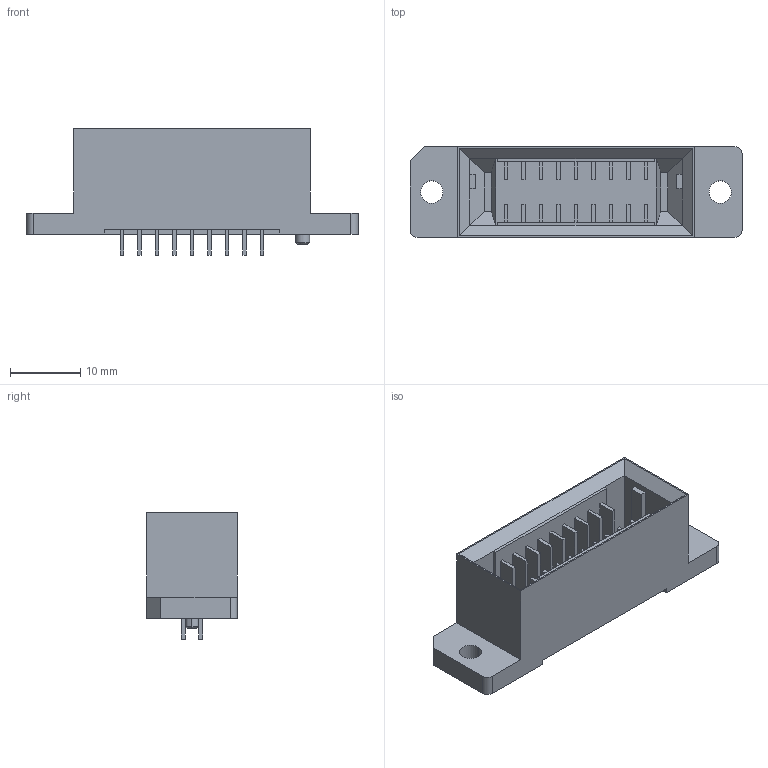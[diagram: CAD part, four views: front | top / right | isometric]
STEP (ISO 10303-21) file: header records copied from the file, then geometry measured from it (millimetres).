
FILE_DESCRIPTION(('CoCreate Modeling STEP Export'),'2;1');
FILE_NAME('P3A946_FA11-018.stp','2017-07-27T15:57:02',(''),(''),'CoCreate Modeling STEP processor for AP214 (Solid Model)','CoCreate Modeling 17.0B 09-Oct-2010 (C) Parametric Technology GmbH','');
FILE_SCHEMA(('AUTOMOTIVE_DESIGN { 1 0 10303 214 1 1 1 1 }'));
Length unit declared in the file: millimetre
Products named in the file (2): FA11-018
Assembly tree (1 placements, depth 2):
  FA11-018
    FA11-018
Bounding box: 47.3 x 12.9 x 18 mm (x, y, z)
Volume: 3736.7 mm3; surface area: 4566.5 mm2
Topology: 1 solids, 1 shells, 230 faces, 607 edges, 399 vertices
Faces by surface type: plane 219, cylinder 9, cone 2
Entity records: 6909 total; most frequent: CARTESIAN_POINT 1216, ORIENTED_EDGE 1214, DIRECTION 1058, EDGE_CURVE 607, VECTOR 576, LINE 576, VERTEX_POINT 399, EDGE_LOOP 254
